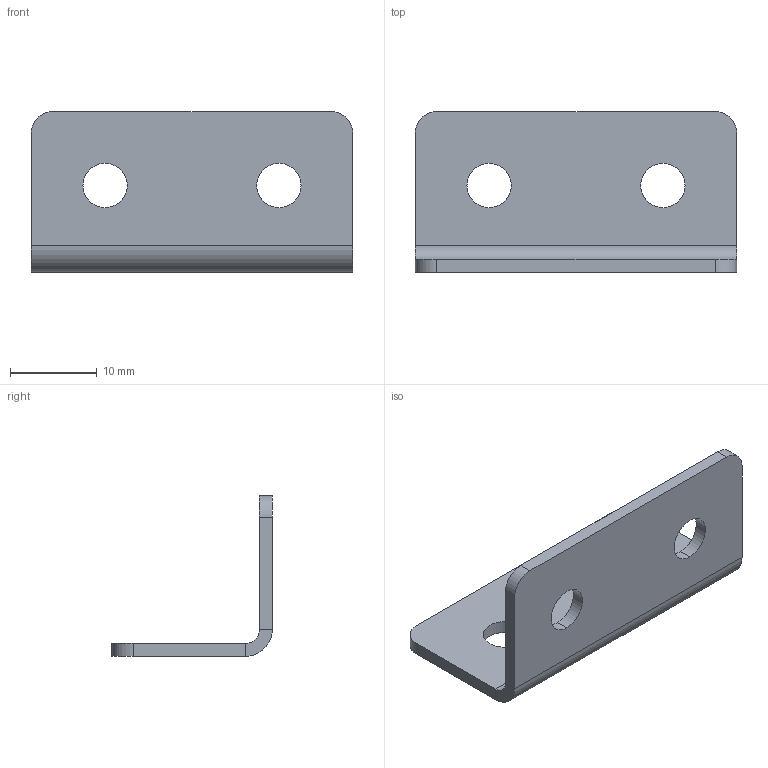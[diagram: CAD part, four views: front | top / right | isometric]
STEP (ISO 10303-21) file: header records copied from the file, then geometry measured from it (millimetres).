
FILE_DESCRIPTION (( 'STEP AP214' ), '1' );
FILE_NAME ('8002s.STEP', '2015-03-29T06:07:27', ( '' ), ( '' ), 'SwSTEP 2.0', 'SolidWorks 2014', '' );
FILE_SCHEMA (( 'AUTOMOTIVE_DESIGN' ));
Length unit declared in the file: millimetre
Products named in the file (1): 8002s
Bounding box: 37 x 18.5 x 18.5 mm (x, y, z)
Volume: 1783.7 mm3; surface area: 2682.4 mm2
Topology: 1 solids, 1 shells, 26 faces, 64 edges, 40 vertices
Faces by surface type: cylinder 14, plane 12
Entity records: 822 total; most frequent: DIRECTION 146, CARTESIAN_POINT 131, ORIENTED_EDGE 128, EDGE_CURVE 64, AXIS2_PLACEMENT_3D 55, VERTEX_POINT 40, VECTOR 36, LINE 36
